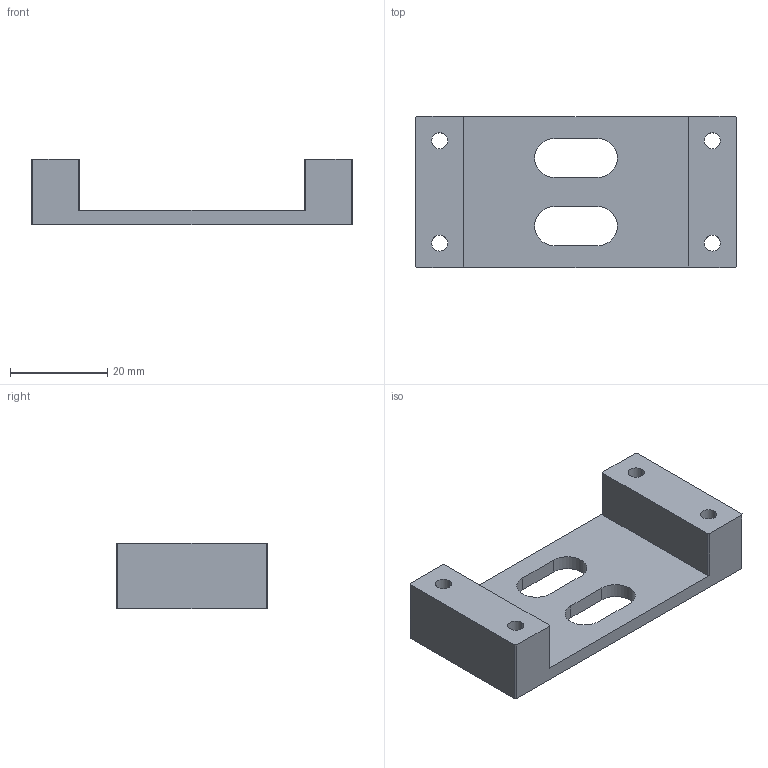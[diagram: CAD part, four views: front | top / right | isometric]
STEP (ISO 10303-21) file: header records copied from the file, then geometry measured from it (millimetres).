
FILE_DESCRIPTION (( 'STEP AP214' ), '1' );
FILE_NAME ('SMBR-46.STEP', '2019-11-07T02:32:52', ( '微软用户' ), ( '微软中国' ), 'SwSTEP 2.0', 'SolidWorks 2016', '' );
FILE_SCHEMA (( 'AUTOMOTIVE_DESIGN' ));
Length unit declared in the file: millimetre
Products named in the file (1): SMBR-46
Bounding box: 66 x 31 x 13.5 mm (x, y, z)
Volume: 11448.2 mm3; surface area: 6639.9 mm2
Topology: 1 solids, 1 shells, 35 faces, 99 edges, 66 vertices
Faces by surface type: plane 22, cylinder 13
Entity records: 1197 total; most frequent: CARTESIAN_POINT 201, ORIENTED_EDGE 198, DIRECTION 197, EDGE_CURVE 99, VECTOR 73, LINE 73, VERTEX_POINT 66, AXIS2_PLACEMENT_3D 62
